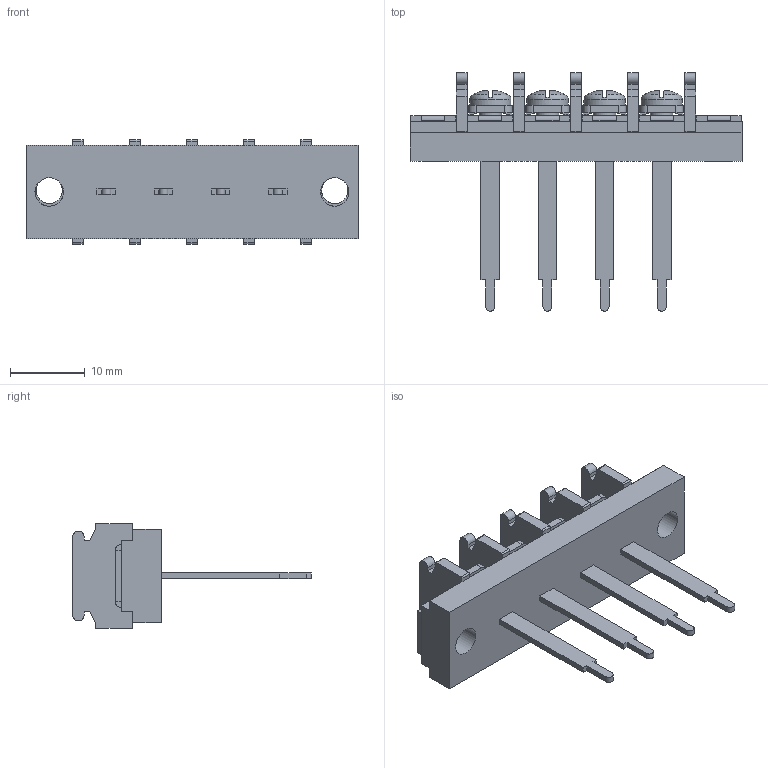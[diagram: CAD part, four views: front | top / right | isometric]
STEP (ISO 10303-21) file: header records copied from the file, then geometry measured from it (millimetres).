
FILE_DESCRIPTION(/* description */ ('Alibre Inc.'),/* implementation_level */ '2;1');
FILE_NAME(/* name */ 'export0',/* time_stamp */ '2015-10-26T16:26:09+09:00',/* author */ (''),/* organization */ (''),/* preprocessor_version */ 'ST-DEVELOPER v14',/* originating_system */ 'Alibre',/* authorisation */ '');
FILE_SCHEMA (('CONFIG_CONTROL_DESIGN'));
Length unit declared in the file: centimetre
Products named in the file (1): ID_1
Bounding box: 44.3 x 31.8 x 14 mm (x, y, z)
Volume: 3907.7 mm3; surface area: 4071.1 mm2
Topology: 1 solids, 17 shells, 916 faces, 2468 edges, 1624 vertices
Faces by surface type: plane 706, bspline 104, cylinder 74, cone 16, torus 8, sphere 8
Full cylindrical faces by diameter (mm): 3 x4, 3.5 x2, 3.8 x2, 5.5 x4
Entity records: 27265 total; most frequent: CARTESIAN_POINT 6025, ORIENTED_EDGE 4872, DIRECTION 3242, EDGE_CURVE 2436, VECTOR 1828, LINE 1828, VERTEX_POINT 1612, AXIS2_PLACEMENT_3D 1033
